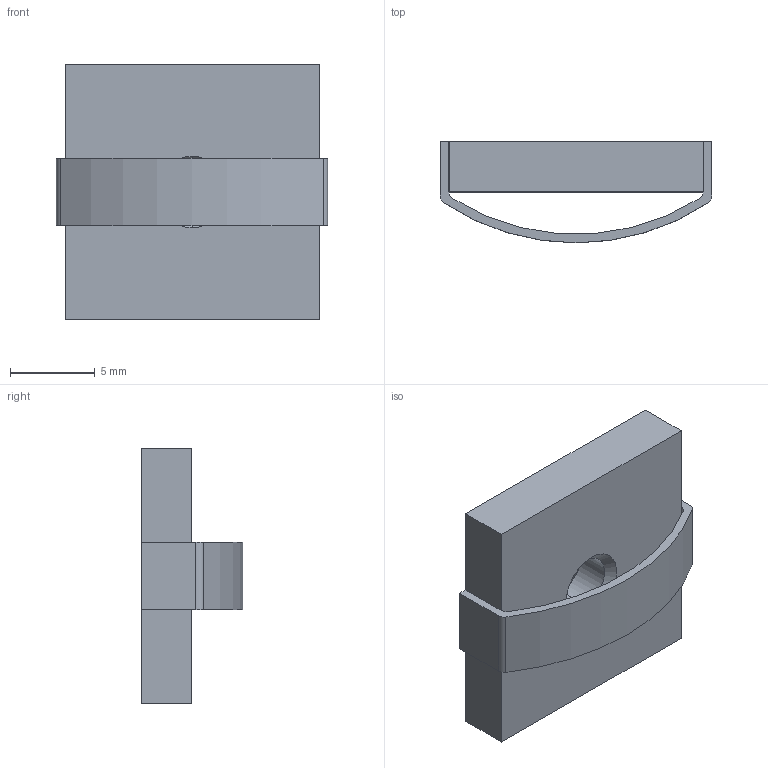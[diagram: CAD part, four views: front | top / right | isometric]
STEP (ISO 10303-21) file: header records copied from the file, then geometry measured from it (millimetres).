
FILE_DESCRIPTION (( 'STEP AP214' ), '1' );
FILE_NAME ('SNSD.30.51.26. Ñóõàðü ïàçîâûé ñ ïðóæèííîé ïëàñòèíîé M4, ïàç 8(C78).STEP', '2014-11-29T15:26:48', ( 'Dmitriy' ), ( '' ), 'SwSTEP 2.0', 'SolidWorks 2014', '' );
FILE_SCHEMA (( 'AUTOMOTIVE_DESIGN' ));
Length unit declared in the file: millimetre
Products named in the file (3): SNSD.30.51.19. ﾏ跖浯(B79)C77C78_00; SNSD.30.51.26. Ñóõàðü ïàçîâûé ñ ïðóæèííîé ïëàñòèíîé M4, ïàç 8(C78); SNSD.30.51.19. Ñóõàðü ïàçîâûé ñ ïðóæèííîé ïëàñòèíîé M6, ïàç 8(B79)C77C78_00
Assembly tree (2 placements, depth 2):
  SNSD.30.51.26. Ñóõàðü ïàçîâûé ñ ïðóæèííîé ïëàñòèíîé M4, ïàç 8(C78)
    SNSD.30.51.19. Ñóõàðü ïàçîâûé ñ ïðóæèííîé ïëàñòèíîé M6, ïàç 8(B79)C77C78_00
    SNSD.30.51.19. ﾏ跖浯(B79)C77C78_00
Bounding box: 16 x 6 x 15 mm (x, y, z)
Volume: 694.5 mm3; surface area: 850.9 mm2
Topology: 2 solids, 2 shells, 26 faces, 62 edges, 40 vertices
Faces by surface type: plane 14, cylinder 8, cone 4
Entity records: 890 total; most frequent: DIRECTION 144, CARTESIAN_POINT 133, ORIENTED_EDGE 124, EDGE_CURVE 62, AXIS2_PLACEMENT_3D 51, VECTOR 42, LINE 42, VERTEX_POINT 40
